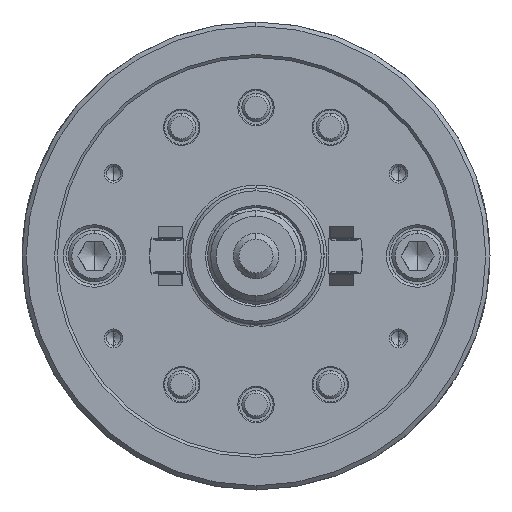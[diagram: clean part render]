
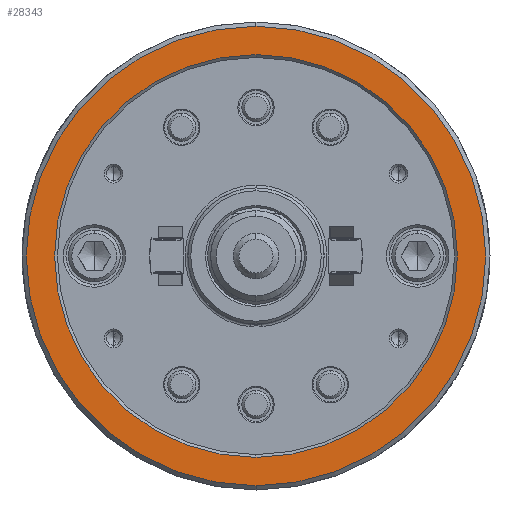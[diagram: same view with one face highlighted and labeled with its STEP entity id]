
A CAD part, left-side view. The second image highlights one B-rep face of the part: STEP entity #28343.
In plain terms, the highlighted planar face has unit normal (-1, 0, 0).
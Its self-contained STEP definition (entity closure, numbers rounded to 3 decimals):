
#1844 = DIRECTION ( 'NONE',  ( 1., 0., 0. ) ) ;
#4089 = EDGE_CURVE ( 'NONE', #47595, #68481, #36331, .T. ) ;
#7461 = DIRECTION ( 'NONE',  ( 0., 0., -1. ) ) ;
#7862 = DIRECTION ( 'NONE',  ( 1., 0., 0. ) ) ;
#8231 = EDGE_CURVE ( 'NONE', #43946, #56868, #34707, .T. ) ;
#9486 = AXIS2_PLACEMENT_3D ( 'NONE', #72824, #7862, #7461 ) ;
#10167 = AXIS2_PLACEMENT_3D ( 'NONE', #76484, #56559, #55719 ) ;
#10209 = ORIENTED_EDGE ( 'NONE', *, *, #48179, .F. ) ;
#16991 = DIRECTION ( 'NONE',  ( 0., 0., -1. ) ) ;
#22824 = AXIS2_PLACEMENT_3D ( 'NONE', #75181, #69635, #16991 ) ;
#28343 = ADVANCED_FACE ( 'NONE', ( #50601, #36995 ), #50177, .F. ) ;
#28917 = CARTESIAN_POINT ( 'NONE',  ( -74., 0., -81. ) ) ;
#29785 = CIRCLE ( 'NONE', #9486, 81. ) ;
#30957 = EDGE_CURVE ( 'NONE', #68481, #47595, #45008, .T. ) ;
#34707 = CIRCLE ( 'NONE', #76790, 81. ) ;
#36331 = CIRCLE ( 'NONE', #22824, 71. ) ;
#36995 = FACE_BOUND ( 'NONE', #45040, .T. ) ;
#37042 = CARTESIAN_POINT ( 'NONE',  ( -74., 0., 81. ) ) ;
#39802 = EDGE_LOOP ( 'NONE', ( #10209, #54739 ) ) ;
#42079 = ORIENTED_EDGE ( 'NONE', *, *, #4089, .T. ) ;
#43946 = VERTEX_POINT ( 'NONE', #37042 ) ;
#45008 = CIRCLE ( 'NONE', #62667, 71. ) ;
#45040 = EDGE_LOOP ( 'NONE', ( #42079, #51808 ) ) ;
#45994 = DIRECTION ( 'NONE',  ( 0., 0., -1. ) ) ;
#47595 = VERTEX_POINT ( 'NONE', #75947 ) ;
#48179 = EDGE_CURVE ( 'NONE', #56868, #43946, #29785, .T. ) ;
#50177 = PLANE ( 'NONE',  #10167 ) ;
#50601 = FACE_OUTER_BOUND ( 'NONE', #39802, .T. ) ;
#51808 = ORIENTED_EDGE ( 'NONE', *, *, #30957, .T. ) ;
#53315 = DIRECTION ( 'NONE',  ( 1., 0., 0. ) ) ;
#54739 = ORIENTED_EDGE ( 'NONE', *, *, #8231, .F. ) ;
#55719 = DIRECTION ( 'NONE',  ( 0., 0., -1. ) ) ;
#56559 = DIRECTION ( 'NONE',  ( 1., 0., 0. ) ) ;
#56868 = VERTEX_POINT ( 'NONE', #28917 ) ;
#58837 = CARTESIAN_POINT ( 'NONE',  ( -74., 0., 0. ) ) ;
#60022 = CARTESIAN_POINT ( 'NONE',  ( -74., 0., 0. ) ) ;
#62667 = AXIS2_PLACEMENT_3D ( 'NONE', #60022, #1844, #45994 ) ;
#68481 = VERTEX_POINT ( 'NONE', #73948 ) ;
#69635 = DIRECTION ( 'NONE',  ( 1., 0., 0. ) ) ;
#72824 = CARTESIAN_POINT ( 'NONE',  ( -74., 0., 0. ) ) ;
#73948 = CARTESIAN_POINT ( 'NONE',  ( -74., 0., -71. ) ) ;
#75181 = CARTESIAN_POINT ( 'NONE',  ( -74., 0., 0. ) ) ;
#75947 = CARTESIAN_POINT ( 'NONE',  ( -74., 0., 71. ) ) ;
#76484 = CARTESIAN_POINT ( 'NONE',  ( -74., -81., 0. ) ) ;
#76790 = AXIS2_PLACEMENT_3D ( 'NONE', #58837, #53315, #77937 ) ;
#77937 = DIRECTION ( 'NONE',  ( 0., 0., -1. ) ) ;
